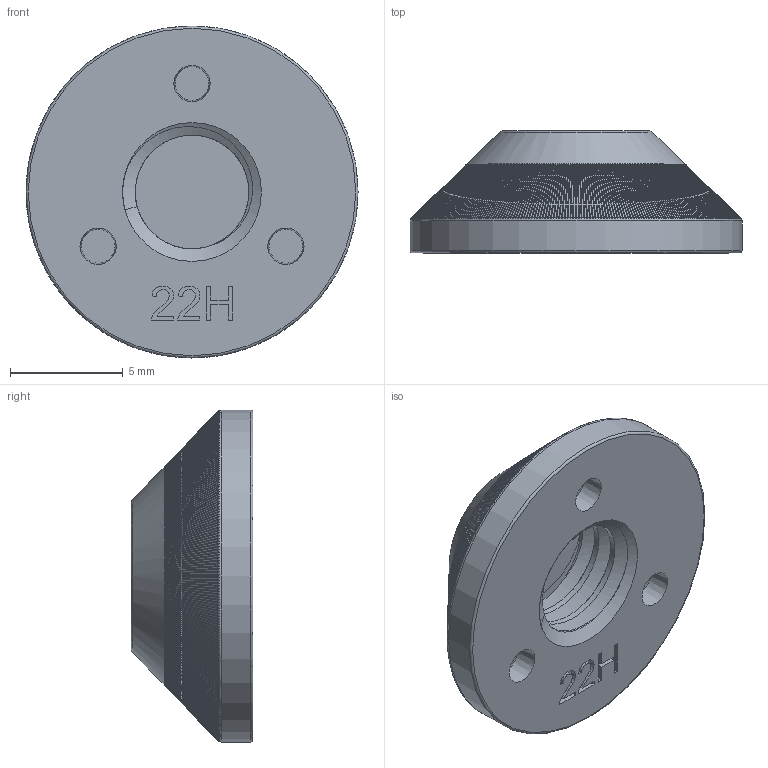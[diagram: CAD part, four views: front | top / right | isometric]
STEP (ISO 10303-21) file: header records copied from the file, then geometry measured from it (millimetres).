
FILE_DESCRIPTION(/* description */ (''),/* implementation_level */ '2;1');
FILE_NAME(/* name */ 'HEWI_CONU_M6L_PreFinal_1.step',/* time_stamp */ '2024-01-24T07:13:40+01:00',/* author */ (''),/* organization */ (''),/* preprocessor_version */ 'ST-DEVELOPER v20',/* originating_system */ 'Autodesk Translation Framework v12.14.0.127',/* authorisation */ '');
FILE_SCHEMA (('AUTOMOTIVE_DESIGN { 1 0 10303 214 3 1 1 }'));
Length unit declared in the file: millimetre
Products named in the file (1): HEWI_CONU_M6L
Bounding box: 14.7 x 5.4 x 14.7 mm (x, y, z)
Volume: 482.5 mm3; surface area: 665.3 mm2
Topology: 1 solids, 1 shells, 1943 faces, 6538 edges, 3865 vertices
Faces by surface type: bspline 1518, cylinder 386, plane 30, cone 6, torus 3
Full cylindrical faces by diameter (mm): 5.035 x2, 6.147 x2, 14.7 x1
Entity records: 143187 total; most frequent: CARTESIAN_POINT 103406, ORIENTED_EDGE 11594, EDGE_CURVE 5797, DIRECTION 4710, VERTEX_POINT 3864, B_SPLINE_CURVE_WITH_KNOTS 3072, AXIS2_PLACEMENT_3D 2298, EDGE_LOOP 1951
